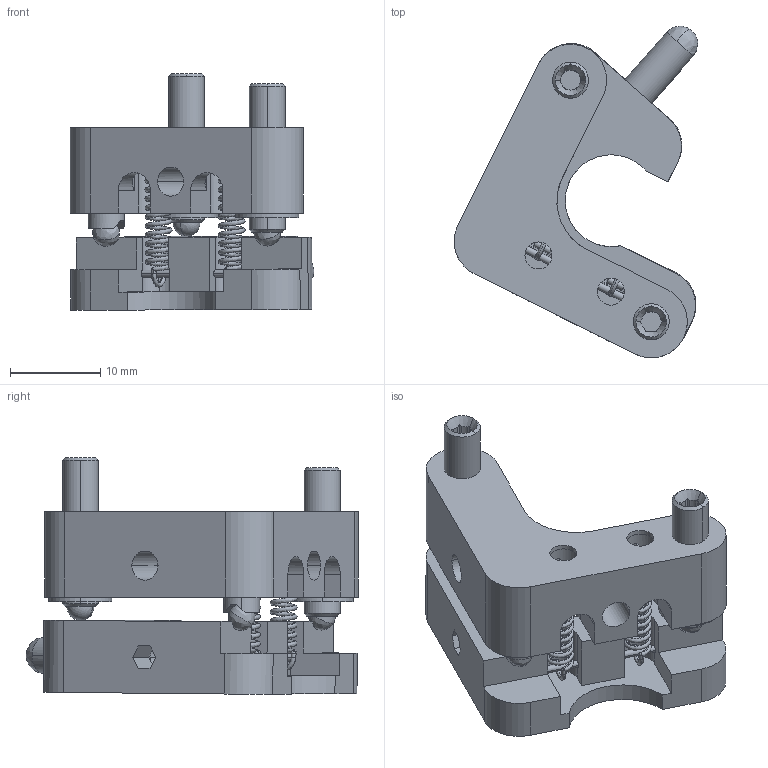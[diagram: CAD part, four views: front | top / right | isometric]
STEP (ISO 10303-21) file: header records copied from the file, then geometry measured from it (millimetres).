
FILE_DESCRIPTION (( 'STEP AP203' ), '1' );
FILE_NAME ('5F23-05-SH.STEP', '2010-01-05T12:57:08', ( 'Darius' ), ( '' ), 'SwSTEP 2.0', 'SolidWorks 2003240', '' );
FILE_SCHEMA (( 'CONFIG_CONTROL_DESIGN' ));
Length unit declared in the file: millimetre
Products named in the file (1): 5F23-05-SH
Bounding box: 27.06 x 36.87 x 26.26 mm (x, y, z)
Volume: 6236.5 mm3; surface area: 4772.2 mm2
Topology: 1 solids, 1 shells, 248 faces, 758 edges, 496 vertices
Faces by surface type: plane 94, cylinder 87, bspline 46, cone 21
Entity records: 18319 total; most frequent: CARTESIAN_POINT 11787, ORIENTED_EDGE 1496, DIRECTION 1175, EDGE_CURVE 748, VERTEX_POINT 498, AXIS2_PLACEMENT_3D 439, LINE 297, VECTOR 297
